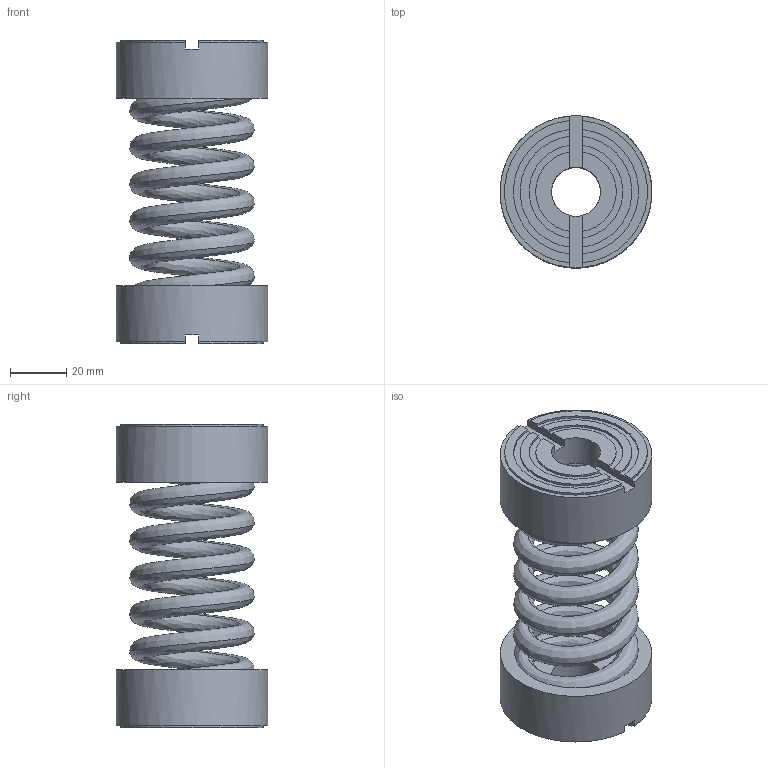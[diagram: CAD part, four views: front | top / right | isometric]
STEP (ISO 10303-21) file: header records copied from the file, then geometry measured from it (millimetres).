
FILE_DESCRIPTION(/* description */ (''),/* implementation_level */ '2;1');
FILE_NAME(/* name */ '\\Mleuckthor2\cad-proe_solids\WEBSITE FILES 05.22.13\STEP\IMF\IMF-A-625.stp',/* time_stamp */ '2016-03-05T16:13:34-05:00',/* author */ ('rramoutar'),/* organization */ ('Mason Industries Inc.'),/* preprocessor_version */ 'ST-DEVELOPER v15.6',/* originating_system */ 'Autodesk Inventor 2015',/* authorisation */ '');
FILE_SCHEMA (('CONFIG_CONTROL_DESIGN'));
Length unit declared in the file: inch
Products named in the file (1): IMF-A-625
Bounding box: 53.98 x 53.98 x 107.95 mm (x, y, z)
Volume: 70514.7 mm3; surface area: 60118.4 mm2
Topology: 5 solids, 7 shells, 112 faces, 294 edges, 196 vertices
Faces by surface type: plane 54, cylinder 36, bspline 22
Full cylindrical faces by diameter (mm): 17.462 x2, 24.606 x4, 43.656 x2, 44.45 x4, 53.975 x2
Entity records: 13620 total; most frequent: CARTESIAN_POINT 10826, ORIENTED_EDGE 552, DIRECTION 496, EDGE_CURVE 276, VERTEX_POINT 192, AXIS2_PLACEMENT_3D 177, LINE 142, VECTOR 142
